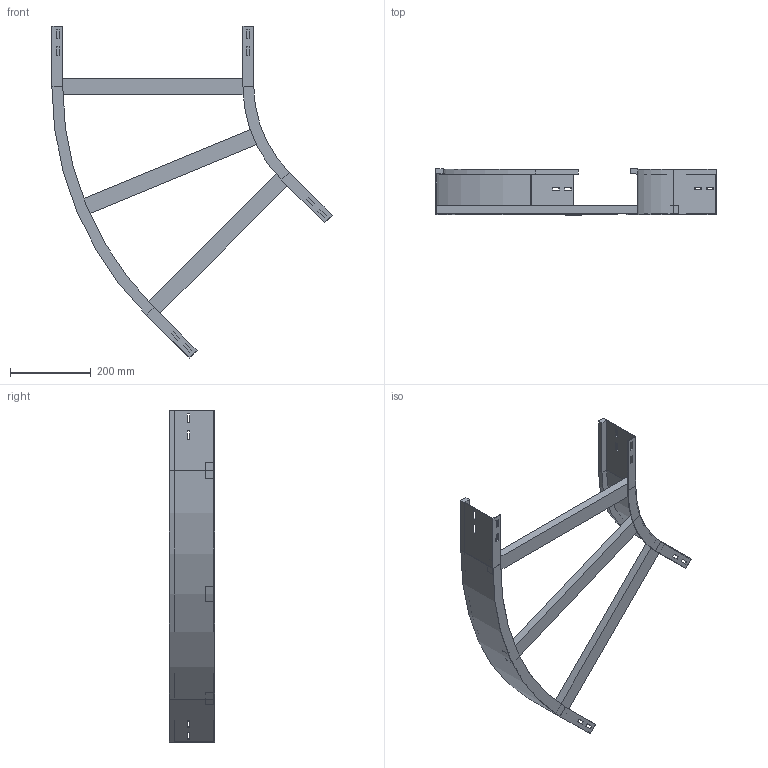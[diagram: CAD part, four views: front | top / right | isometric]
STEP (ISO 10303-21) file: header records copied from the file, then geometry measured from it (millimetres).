
FILE_DESCRIPTION (( 'STEP AP214' ), '1' );
FILE_NAME ('A2_11B3J500.step', '2025-02-21T15:14:22', ( '' ), ( '' ), 'SwSTEP 2.0', 'SolidWorks 2023', '' );
FILE_SCHEMA (( 'AUTOMOTIVE_DESIGN' ));
Length unit declared in the file: millimetre
Products named in the file (4): A2_LONGH.ESTERNO 45°_H112.5_R300+500; A2_11B3J500; A2_LONGH.INTERNO 45°_H112.5_R300; TRAVERSINO_500
Assembly tree (5 placements, depth 2):
  A2_11B3J500
    A2_LONGH.INTERNO 45°_H112.5_R300
    A2_LONGH.ESTERNO 45°_H112.5_R300+500
    TRAVERSINO_500  x3
Bounding box: 693.93 x 112.5 x 821.75 mm (x, y, z)
Volume: 1884011 mm3; surface area: 638988.7 mm2
Topology: 5 solids, 5 shells, 134 faces, 340 edges, 216 vertices
Faces by surface type: plane 126, cylinder 8
Entity records: 3821 total; most frequent: CARTESIAN_POINT 646, ORIENTED_EDGE 632, DIRECTION 592, EDGE_CURVE 316, VECTOR 300, LINE 300, VERTEX_POINT 200, EDGE_LOOP 154
